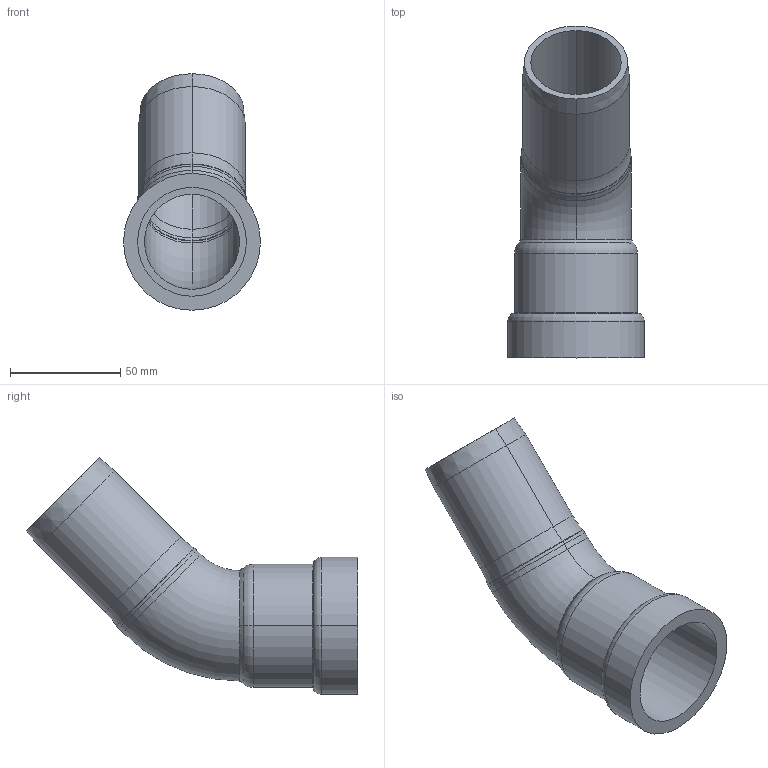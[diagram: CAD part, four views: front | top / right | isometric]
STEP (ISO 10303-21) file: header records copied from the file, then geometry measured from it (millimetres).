
FILE_DESCRIPTION(('Creo Elements/Direct Modeling STEP Export'),'2;1');
FILE_NAME('C9412_1-1-2.stp','2020-06-25T13:55:12',(''),(''),'PTC Creo Elements/Direct Modeling STEP processor for AP214 (Solid Model)','PTC Creo Elements/Direct Modeling 19.0C 15-Aug-2015 (C) Parametric Technology GmbH','');
FILE_SCHEMA(('AUTOMOTIVE_DESIGN { 1 0 10303 214 1 1 1 1 }'));
Length unit declared in the file: millimetre
Products named in the file (2): 9412_1-1-2
Assembly tree (1 placements, depth 2):
  9412_1-1-2
    9412_1-1-2
Bounding box: 62 x 150.22 x 107.11 mm (x, y, z)
Volume: 92816.1 mm3; surface area: 49606.3 mm2
Topology: 1 solids, 1 shells, 45 faces, 95 edges, 53 vertices
Faces by surface type: torus 16, cylinder 16, cone 10, plane 3
Entity records: 1902 total; most frequent: CARTESIAN_POINT 942, DIRECTION 202, ORIENTED_EDGE 190, EDGE_CURVE 95, AXIS2_PLACEMENT_3D 88, VERTEX_POINT 53, EDGE_LOOP 48, FACE_OUTER_BOUND 45
